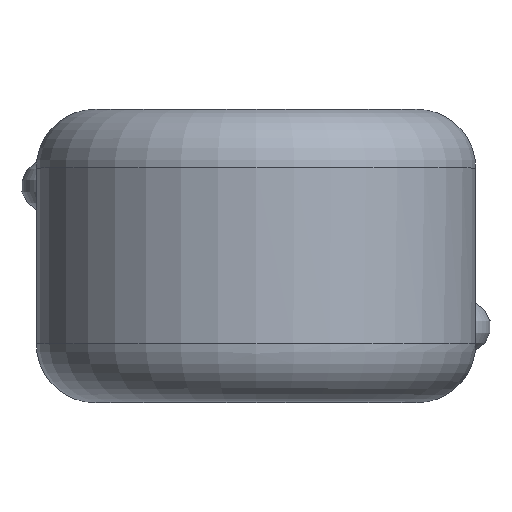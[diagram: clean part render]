
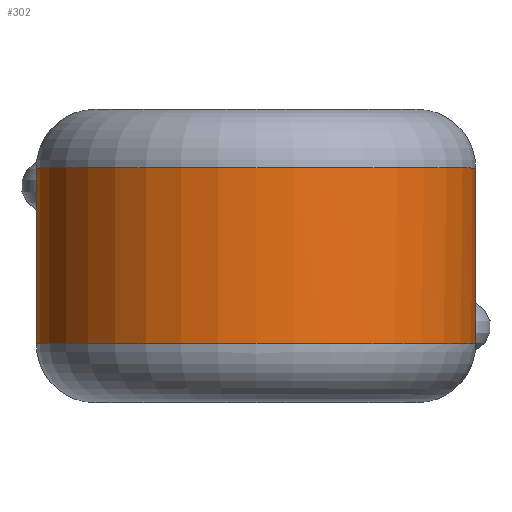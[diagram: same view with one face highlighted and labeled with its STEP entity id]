
A CAD part, top view. The second image highlights one B-rep face of the part: STEP entity #302.
In plain terms, the highlighted cylindrical face has radius 3.75 mm (diameter 7.5 mm), a full revolution.
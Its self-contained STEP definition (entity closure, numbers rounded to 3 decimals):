
#24=B_SPLINE_CURVE_WITH_KNOTS('',3,(#1048,#1049,#1050,#1051,#1052,#1053,
#1054,#1055,#1056,#1057),.UNSPECIFIED.,.F.,.F.,(4,1,1,1,1,1,1,4),(-0.244,
-0.209,-0.192,-0.14,-0.105,
-0.07,-0.035,0.),.UNSPECIFIED.);
#26=B_SPLINE_CURVE_WITH_KNOTS('',3,(#1113,#1114,#1115,#1116,#1117,#1118,
#1119,#1120,#1121,#1122),.UNSPECIFIED.,.F.,.F.,(4,1,1,1,1,1,1,4),(-0.244,
-0.209,-0.192,-0.14,-0.105,
-0.07,-0.035,0.),.UNSPECIFIED.);
#72=FACE_OUTER_BOUND('',#92,.T.);
#92=EDGE_LOOP('',(#241,#242,#243,#244,#245,#246,#247,#248,#249,#250));
#105=LINE('',#1107,#108);
#108=VECTOR('',#407,3.75);
#120=CIRCLE('',#347,3.75);
#121=CIRCLE('',#348,3.75);
#122=CIRCLE('',#349,3.75);
#123=CIRCLE('',#351,3.75);
#124=CIRCLE('',#352,3.75);
#125=CIRCLE('',#353,3.75);
#143=VERTEX_POINT('',#1044);
#144=VERTEX_POINT('',#1046);
#147=VERTEX_POINT('',#1099);
#148=VERTEX_POINT('',#1102);
#149=VERTEX_POINT('',#1106);
#150=VERTEX_POINT('',#1108);
#151=VERTEX_POINT('',#1110);
#152=VERTEX_POINT('',#1112);
#176=EDGE_CURVE('',#143,#144,#24,.T.);
#181=EDGE_CURVE('',#144,#147,#120,.T.);
#182=EDGE_CURVE('',#148,#143,#121,.T.);
#183=EDGE_CURVE('',#147,#148,#122,.T.);
#184=EDGE_CURVE('',#148,#149,#105,.T.);
#185=EDGE_CURVE('',#149,#150,#123,.T.);
#186=EDGE_CURVE('',#150,#151,#124,.T.);
#187=EDGE_CURVE('',#151,#152,#26,.T.);
#188=EDGE_CURVE('',#152,#149,#125,.T.);
#241=ORIENTED_EDGE('',*,*,#176,.T.);
#242=ORIENTED_EDGE('',*,*,#181,.T.);
#243=ORIENTED_EDGE('',*,*,#183,.T.);
#244=ORIENTED_EDGE('',*,*,#184,.T.);
#245=ORIENTED_EDGE('',*,*,#185,.T.);
#246=ORIENTED_EDGE('',*,*,#186,.T.);
#247=ORIENTED_EDGE('',*,*,#187,.T.);
#248=ORIENTED_EDGE('',*,*,#188,.T.);
#249=ORIENTED_EDGE('',*,*,#184,.F.);
#250=ORIENTED_EDGE('',*,*,#182,.T.);
#292=CYLINDRICAL_SURFACE('',#350,3.75);
#302=ADVANCED_FACE('',(#72),#292,.T.);
#347=AXIS2_PLACEMENT_3D('',#1101,#399,#400);
#348=AXIS2_PLACEMENT_3D('',#1103,#401,#402);
#349=AXIS2_PLACEMENT_3D('',#1104,#403,#404);
#350=AXIS2_PLACEMENT_3D('',#1105,#405,#406);
#351=AXIS2_PLACEMENT_3D('',#1109,#408,#409);
#352=AXIS2_PLACEMENT_3D('',#1111,#410,#411);
#353=AXIS2_PLACEMENT_3D('',#1123,#412,#413);
#399=DIRECTION('center_axis',(0.,-1.,0.));
#400=DIRECTION('ref_axis',(-1.,0.,0.));
#401=DIRECTION('center_axis',(0.,-1.,0.));
#402=DIRECTION('ref_axis',(-1.,0.,0.));
#403=DIRECTION('center_axis',(0.,-1.,0.));
#404=DIRECTION('ref_axis',(-1.,0.,0.));
#405=DIRECTION('center_axis',(0.,-1.,0.));
#406=DIRECTION('ref_axis',(1.,0.,0.));
#407=DIRECTION('',(0.,-1.,0.));
#408=DIRECTION('center_axis',(0.,1.,0.));
#409=DIRECTION('ref_axis',(-1.,0.,0.));
#410=DIRECTION('center_axis',(0.,1.,0.));
#411=DIRECTION('ref_axis',(-1.,0.,0.));
#412=DIRECTION('center_axis',(0.,1.,0.));
#413=DIRECTION('ref_axis',(-1.,0.,0.));
#1044=CARTESIAN_POINT('',(-2.989,1.5,-2.265));
#1046=CARTESIAN_POINT('',(-2.319,1.5,-2.947));
#1048=CARTESIAN_POINT('Ctrl Pts',(-2.989,1.5,-2.265));
#1049=CARTESIAN_POINT('Ctrl Pts',(-3.025,1.401,-2.217));
#1050=CARTESIAN_POINT('Ctrl Pts',(-3.049,1.224,-2.183));
#1051=CARTESIAN_POINT('Ctrl Pts',(-3.008,0.877,-2.24));
#1052=CARTESIAN_POINT('Ctrl Pts',(-2.844,0.614,-2.458));
#1053=CARTESIAN_POINT('Ctrl Pts',(-2.552,0.615,-2.755));
#1054=CARTESIAN_POINT('Ctrl Pts',(-2.328,0.823,-2.942));
#1055=CARTESIAN_POINT('Ctrl Pts',(-2.226,1.165,-3.018));
#1056=CARTESIAN_POINT('Ctrl Pts',(-2.273,1.401,-2.983));
#1057=CARTESIAN_POINT('Ctrl Pts',(-2.319,1.5,-2.947));
#1099=CARTESIAN_POINT('',(0.,1.5,-3.75));
#1101=CARTESIAN_POINT('Origin',(0.,1.5,0.));
#1102=CARTESIAN_POINT('',(-3.75,1.5,0.));
#1103=CARTESIAN_POINT('Origin',(0.,1.5,0.));
#1104=CARTESIAN_POINT('Origin',(0.,1.5,0.));
#1105=CARTESIAN_POINT('Origin',(0.,0.,0.));
#1106=CARTESIAN_POINT('',(-3.75,-1.5,0.));
#1107=CARTESIAN_POINT('',(-3.75,0.,0.));
#1108=CARTESIAN_POINT('',(0.,-1.5,3.75));
#1109=CARTESIAN_POINT('Origin',(0.,-1.5,0.));
#1110=CARTESIAN_POINT('',(2.989,-1.5,-2.265));
#1111=CARTESIAN_POINT('Origin',(0.,-1.5,0.));
#1112=CARTESIAN_POINT('',(2.319,-1.5,-2.947));
#1113=CARTESIAN_POINT('Ctrl Pts',(2.989,-1.5,-2.265));
#1114=CARTESIAN_POINT('Ctrl Pts',(3.025,-1.401,-2.217));
#1115=CARTESIAN_POINT('Ctrl Pts',(3.049,-1.224,-2.183));
#1116=CARTESIAN_POINT('Ctrl Pts',(3.008,-0.877,-2.24));
#1117=CARTESIAN_POINT('Ctrl Pts',(2.844,-0.614,-2.458));
#1118=CARTESIAN_POINT('Ctrl Pts',(2.552,-0.615,-2.755));
#1119=CARTESIAN_POINT('Ctrl Pts',(2.328,-0.823,-2.942));
#1120=CARTESIAN_POINT('Ctrl Pts',(2.226,-1.165,-3.018));
#1121=CARTESIAN_POINT('Ctrl Pts',(2.273,-1.401,-2.983));
#1122=CARTESIAN_POINT('Ctrl Pts',(2.319,-1.5,-2.947));
#1123=CARTESIAN_POINT('Origin',(0.,-1.5,0.));
